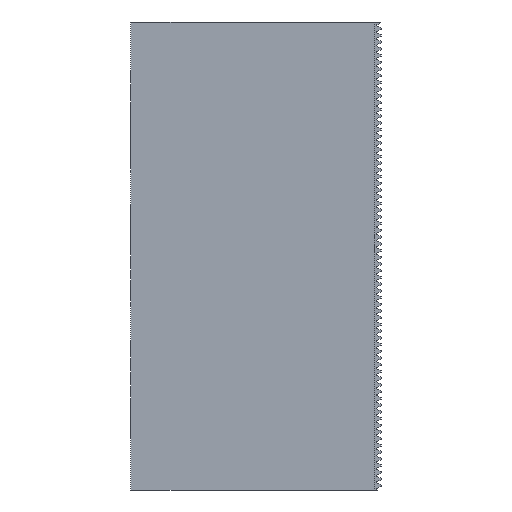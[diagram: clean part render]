
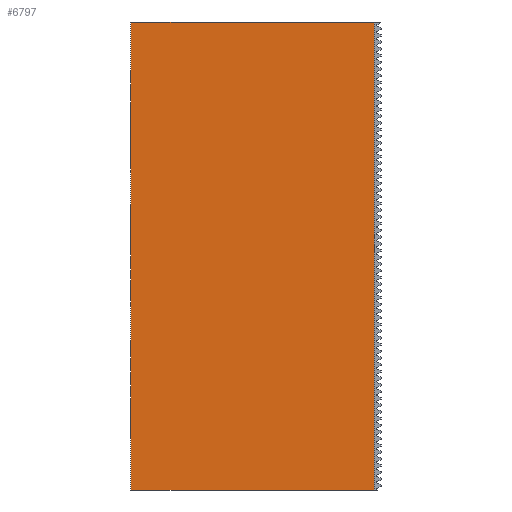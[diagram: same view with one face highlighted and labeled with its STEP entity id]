
A CAD part, left-side view. The second image highlights one B-rep face of the part: STEP entity #6797.
In plain terms, the highlighted planar face has unit normal (-1, 0, 0).
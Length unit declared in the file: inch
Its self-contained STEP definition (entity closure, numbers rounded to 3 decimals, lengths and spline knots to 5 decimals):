
#329 = CARTESIAN_POINT ( 'NONE',  ( -4., 2., -3.9311 ) ) ;
#520 = CARTESIAN_POINT ( 'NONE',  ( -4., 2., -3.9311 ) ) ;
#1186 = ORIENTED_EDGE ( 'NONE', *, *, #15752, .F. ) ;
#1307 = EDGE_CURVE ( 'NONE', #11428, #12424, #3356, .T. ) ;
#1560 = CARTESIAN_POINT ( 'NONE',  ( -4., -0.13567, -7.6214 ) ) ;
#1836 = CARTESIAN_POINT ( 'NONE',  ( -4., -0.13567, -3.9311 ) ) ;
#2299 = PLANE ( 'NONE',  #2653 ) ;
#2584 = CARTESIAN_POINT ( 'NONE',  ( -4., 2., 0.1811 ) ) ;
#2591 = FACE_OUTER_BOUND ( 'NONE', #10314, .T. ) ;
#2653 = AXIS2_PLACEMENT_3D ( 'NONE', #8655, #3185, #2795 ) ;
#2795 = DIRECTION ( 'NONE',  ( 0., 0., 1. ) ) ;
#3185 = DIRECTION ( 'NONE',  ( -1., 0., 0. ) ) ;
#3356 = LINE ( 'NONE', #1560, #10262 ) ;
#3612 = DIRECTION ( 'NONE',  ( 0., -1., 0. ) ) ;
#6797 = ADVANCED_FACE ( 'NONE', ( #2591 ), #2299, .T. ) ;
#8209 = VECTOR ( 'NONE', #3612, 39.37008 ) ;
#8655 = CARTESIAN_POINT ( 'NONE',  ( -4., 0., 0. ) ) ;
#9249 = EDGE_CURVE ( 'NONE', #11428, #11886, #12438, .T. ) ;
#10262 = VECTOR ( 'NONE', #16755, 39.37008 ) ;
#10314 = EDGE_LOOP ( 'NONE', ( #18312, #18549, #11219, #1186 ) ) ;
#11219 = ORIENTED_EDGE ( 'NONE', *, *, #17107, .F. ) ;
#11345 = LINE ( 'NONE', #17218, #8209 ) ;
#11428 = VERTEX_POINT ( 'NONE', #1836 ) ;
#11521 = LINE ( 'NONE', #2584, #12913 ) ;
#11886 = VERTEX_POINT ( 'NONE', #520 ) ;
#12424 = VERTEX_POINT ( 'NONE', #19139 ) ;
#12438 = LINE ( 'NONE', #329, #17121 ) ;
#12913 = VECTOR ( 'NONE', #14796, 39.37008 ) ;
#14796 = DIRECTION ( 'NONE',  ( 0., 0., 1. ) ) ;
#15520 = DIRECTION ( 'NONE',  ( 0., 1., 0. ) ) ;
#15752 = EDGE_CURVE ( 'NONE', #11886, #16874, #11521, .T. ) ;
#16755 = DIRECTION ( 'NONE',  ( 0., 0., 1. ) ) ;
#16874 = VERTEX_POINT ( 'NONE', #17025 ) ;
#17025 = CARTESIAN_POINT ( 'NONE',  ( -4., 2., 0.1811 ) ) ;
#17107 = EDGE_CURVE ( 'NONE', #16874, #12424, #11345, .T. ) ;
#17121 = VECTOR ( 'NONE', #15520, 39.37008 ) ;
#17218 = CARTESIAN_POINT ( 'NONE',  ( -4., 0., 0.1811 ) ) ;
#18312 = ORIENTED_EDGE ( 'NONE', *, *, #9249, .F. ) ;
#18549 = ORIENTED_EDGE ( 'NONE', *, *, #1307, .T. ) ;
#19139 = CARTESIAN_POINT ( 'NONE',  ( -4., -0.13567, 0.1811 ) ) ;
